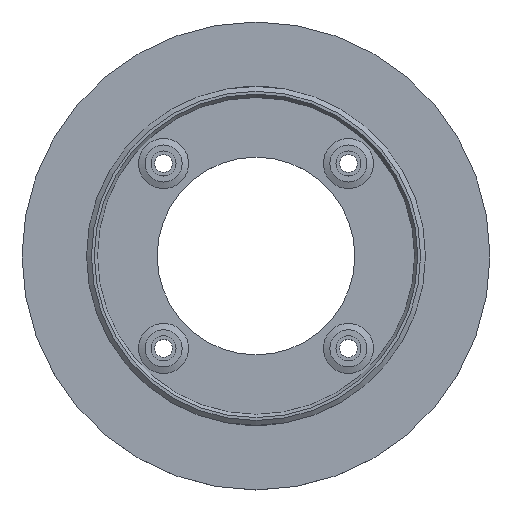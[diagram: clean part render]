
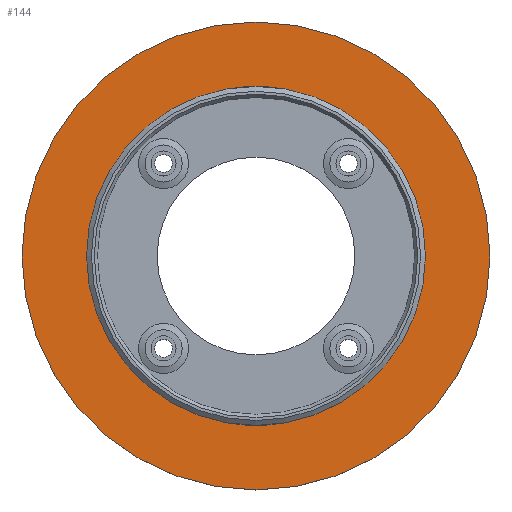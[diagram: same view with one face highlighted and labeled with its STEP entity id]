
A CAD part, top view. The second image highlights one B-rep face of the part: STEP entity #144.
In plain terms, the highlighted planar face has unit normal (0, 0, 1).
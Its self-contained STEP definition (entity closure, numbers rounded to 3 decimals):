
#24 = VERTEX_POINT('',#25);
#25 = CARTESIAN_POINT('',(29.,0.,3.9));
#32 = CYLINDRICAL_SURFACE('',#33,29.);
#33 = AXIS2_PLACEMENT_3D('',#34,#35,#36);
#34 = CARTESIAN_POINT('',(0.,0.,0.8));
#35 = DIRECTION('',(-0.,-0.,-1.));
#36 = DIRECTION('',(1.,0.,0.));
#51 = EDGE_CURVE('',#24,#24,#52,.T.);
#52 = SURFACE_CURVE('',#53,(#58,#65),.PCURVE_S1.);
#53 = CIRCLE('',#54,29.);
#54 = AXIS2_PLACEMENT_3D('',#55,#56,#57);
#55 = CARTESIAN_POINT('',(0.,0.,3.9));
#56 = DIRECTION('',(0.,0.,1.));
#57 = DIRECTION('',(1.,0.,0.));
#58 = PCURVE('',#32,#59);
#59 = DEFINITIONAL_REPRESENTATION('',(#60),#64);
#60 = LINE('',#61,#62);
#61 = CARTESIAN_POINT('',(-0.,-3.1));
#62 = VECTOR('',#63,1.);
#63 = DIRECTION('',(-1.,0.));
#64 = ( GEOMETRIC_REPRESENTATION_CONTEXT(2) 
PARAMETRIC_REPRESENTATION_CONTEXT() REPRESENTATION_CONTEXT('2D SPACE',''
  ) );
#65 = PCURVE('',#66,#71);
#66 = PLANE('',#67);
#67 = AXIS2_PLACEMENT_3D('',#68,#69,#70);
#68 = CARTESIAN_POINT('',(0.,0.,3.9));
#69 = DIRECTION('',(0.,0.,1.));
#70 = DIRECTION('',(1.,0.,-0.));
#71 = DEFINITIONAL_REPRESENTATION('',(#72),#76);
#72 = CIRCLE('',#73,29.);
#73 = AXIS2_PLACEMENT_2D('',#74,#75);
#74 = CARTESIAN_POINT('',(0.,0.));
#75 = DIRECTION('',(1.,0.));
#76 = ( GEOMETRIC_REPRESENTATION_CONTEXT(2) 
PARAMETRIC_REPRESENTATION_CONTEXT() REPRESENTATION_CONTEXT('2D SPACE',''
  ) );
#144 = ADVANCED_FACE('',(#145,#148),#66,.T.);
#145 = FACE_BOUND('',#146,.T.);
#146 = EDGE_LOOP('',(#147));
#147 = ORIENTED_EDGE('',*,*,#51,.T.);
#148 = FACE_BOUND('',#149,.T.);
#149 = EDGE_LOOP('',(#150));
#150 = ORIENTED_EDGE('',*,*,#151,.T.);
#151 = EDGE_CURVE('',#152,#152,#154,.T.);
#152 = VERTEX_POINT('',#153);
#153 = CARTESIAN_POINT('',(21.,0.,3.9));
#154 = SURFACE_CURVE('',#155,(#160,#171),.PCURVE_S1.);
#155 = CIRCLE('',#156,21.);
#156 = AXIS2_PLACEMENT_3D('',#157,#158,#159);
#157 = CARTESIAN_POINT('',(0.,0.,3.9));
#158 = DIRECTION('',(0.,0.,-1.));
#159 = DIRECTION('',(1.,0.,0.));
#160 = PCURVE('',#66,#161);
#161 = DEFINITIONAL_REPRESENTATION('',(#162),#170);
#162 = ( BOUNDED_CURVE() B_SPLINE_CURVE(2,(#163,#164,#165,#166,#167,#168
,#169),.UNSPECIFIED.,.T.,.F.) B_SPLINE_CURVE_WITH_KNOTS((1,2,2,2,2,1),(
    -2.094,0.,2.094,4.189,6.283,
8.378),.UNSPECIFIED.) CURVE() GEOMETRIC_REPRESENTATION_ITEM() 
RATIONAL_B_SPLINE_CURVE((1.,0.5,1.,0.5,1.,0.5,1.)) REPRESENTATION_ITEM(
  '') );
#163 = CARTESIAN_POINT('',(21.,0.));
#164 = CARTESIAN_POINT('',(21.,-36.373));
#165 = CARTESIAN_POINT('',(-10.5,-18.187));
#166 = CARTESIAN_POINT('',(-42.,0.));
#167 = CARTESIAN_POINT('',(-10.5,18.187));
#168 = CARTESIAN_POINT('',(21.,36.373));
#169 = CARTESIAN_POINT('',(21.,0.));
#170 = ( GEOMETRIC_REPRESENTATION_CONTEXT(2) 
PARAMETRIC_REPRESENTATION_CONTEXT() REPRESENTATION_CONTEXT('2D SPACE',''
  ) );
#171 = PCURVE('',#172,#177);
#172 = CYLINDRICAL_SURFACE('',#173,21.);
#173 = AXIS2_PLACEMENT_3D('',#174,#175,#176);
#174 = CARTESIAN_POINT('',(0.,0.,0.8));
#175 = DIRECTION('',(-0.,-0.,-1.));
#176 = DIRECTION('',(1.,0.,0.));
#177 = DEFINITIONAL_REPRESENTATION('',(#178),#182);
#178 = LINE('',#179,#180);
#179 = CARTESIAN_POINT('',(-6.283,-3.1));
#180 = VECTOR('',#181,1.);
#181 = DIRECTION('',(1.,-0.));
#182 = ( GEOMETRIC_REPRESENTATION_CONTEXT(2) 
PARAMETRIC_REPRESENTATION_CONTEXT() REPRESENTATION_CONTEXT('2D SPACE',''
  ) );
